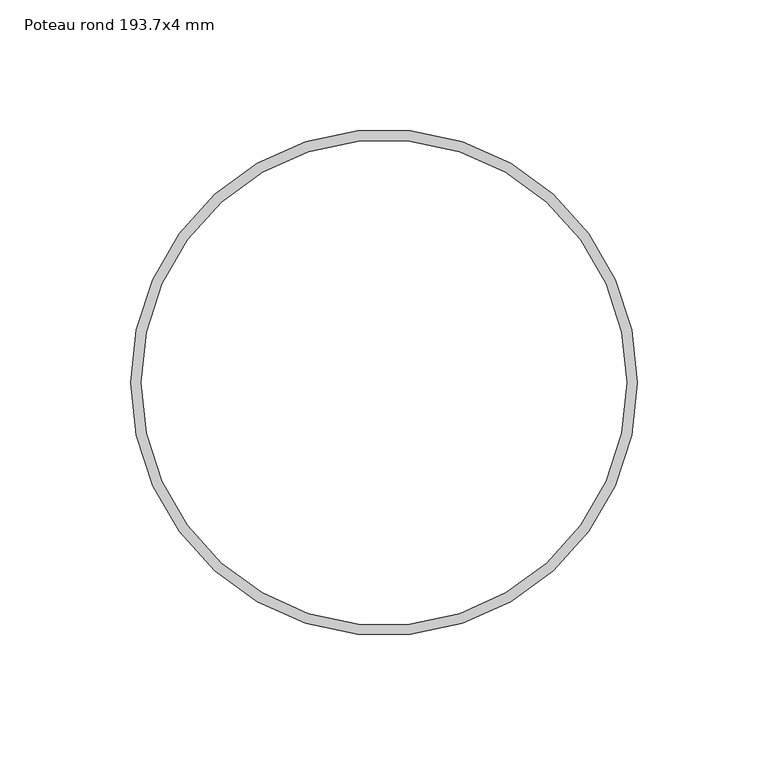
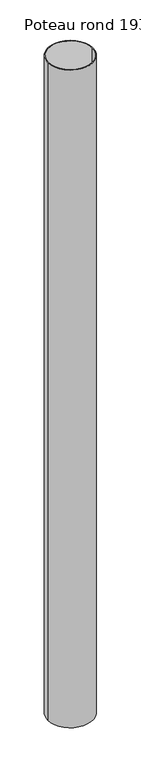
"""IFC4 building model written with IfcOpenShell, lengths in millimetres: column geometry, Poteau RO (EN 10219-2) : Poteau rond 193.7x4 mm."""

import ifcopenshell
import ifcopenshell.guid

model = None  # the IFC model being written
_history = None  # IfcOwnerHistory: only IFC2X3 demands one
_inside = {}  # id of a spatial element -> (the spatial element, [elements in it])
_under = {}  # id of a project, library or spatial element -> (it, [spatial elements below it])
_declared = {}  # id of a project -> (the project, [libraries it declares])
_typed = {}  # id of a type object -> (the type object, [elements of that type])
_made_of = {}  # id of a material, layer set ... -> (it, [elements and type objects made of it])


def new_model(schema):
    """Start an empty IFC model of exactly this schema.

    Asked for "IFC4X3", IfcOpenShell would pick the latest addendum, in which some entities
    have other attributes; the version numbers below select the first issue.
    IFC2X3 requires an IfcOwnerHistory on every rooted entity: one is made here for all.
    """
    global model, _history
    if schema == "IFC4X3":
        model = ifcopenshell.file(schema_version=(4, 3, 0, 0))
    else:
        model = ifcopenshell.file(schema=schema)
    _inside.clear()
    _under.clear()
    _declared.clear()
    _typed.clear()
    _made_of.clear()
    _history = None
    if model.schema == "IFC2X3":
        org = make("IfcOrganization", Name="unknown")
        user = make(
            "IfcPersonAndOrganization",
            ThePerson=make("IfcPerson", FamilyName="unknown"),
            TheOrganization=org,
        )
        app = make(
            "IfcApplication",
            ApplicationDeveloper=org,
            Version="unknown",
            ApplicationFullName="unknown",
            ApplicationIdentifier="unknown",
        )
        _history = make(
            "IfcOwnerHistory",
            OwningUser=user,
            OwningApplication=app,
            ChangeAction="ADDED",
            CreationDate=0,
        )
    return model


def make(cls, **values):
    """One entity of the class cls with the attributes given. An attribute that is None is left unset."""
    return model.create_entity(
        cls, **{name: value for name, value in values.items() if value is not None}
    )


def rooted(cls, **values):
    """An entity with a GlobalId (a new one), such as an element, a storey or a relation."""
    return make(cls, GlobalId=ifcopenshell.guid.new(), OwnerHistory=_history, **values)


def si_unit(unit_type, name, prefix=None):
    """IfcSIUnit, for example si_unit("LENGTHUNIT", "METRE", prefix="MILLI")."""
    return make("IfcSIUnit", UnitType=unit_type, Prefix=prefix, Name=name)


def assignment(units):
    """IfcUnitAssignment: the units of a project."""
    return None if units is None else make("IfcUnitAssignment", Units=units)


def point(xyz):
    """IfcCartesianPoint."""
    return None if xyz is None else make("IfcCartesianPoint", Coordinates=xyz)


def direction(xyz):
    """IfcDirection."""
    return None if xyz is None else make("IfcDirection", DirectionRatios=xyz)


def frame(location, z_axis=None, x_axis=None):
    """IfcAxis2Placement3D, a coordinate frame: its origin and axes. An axis left out is left unset."""
    return make(
        "IfcAxis2Placement3D",
        Location=point(location),
        Axis=direction(z_axis),
        RefDirection=direction(x_axis),
    )


def frame_2d(location, x_axis=None):
    """IfcAxis2Placement2D, a coordinate frame in the plane: its origin and x axis."""
    return make(
        "IfcAxis2Placement2D", Location=point(location), RefDirection=direction(x_axis)
    )


def origin():
    """The frame at (0, 0, 0) with its axes left unset."""
    return frame((0.0, 0.0, 0.0))


def origin_2d():
    """The frame at (0, 0) in the plane with its x axis left unset."""
    return frame_2d((0.0, 0.0))


def place(relative_to, where):
    """IfcLocalPlacement: puts the frame where relative to a parent placement (None: the world)."""
    return make(
        "IfcLocalPlacement", PlacementRelTo=relative_to, RelativePlacement=where
    )


def context(
    kind, dimensions, precision=None, world=None, true_north=None, identifier=None
):
    """IfcGeometricRepresentationContext, for example the 3D "Model" context."""
    return make(
        "IfcGeometricRepresentationContext",
        ContextIdentifier=identifier,
        ContextType=kind,
        CoordinateSpaceDimension=dimensions,
        Precision=precision,
        WorldCoordinateSystem=world,
        TrueNorth=true_north,
    )


def project(units=None, contexts=None):
    """IfcProject with its units and contexts."""
    return rooted(
        "IfcProject",
        Name="project",
        RepresentationContexts=contexts,
        UnitsInContext=assignment(units),
    )


def spatial(cls, under=None, at=None, **own):
    """A site, building, storey or space (cls), placed at a placement, below another one or the project."""
    s = rooted(cls, ObjectPlacement=at, **own)
    if under is not None:
        _under.setdefault(under.id(), (under, []))[1].append(s)
    return s


def circle_curve(where, radius):
    """IfcCircle in the frame where."""
    return make("IfcCircle", Position=where, Radius=radius)


def trimmed(basis, trim1, trim2, sense, master):
    """IfcTrimmedCurve: the piece of a basis curve between two trims."""
    return make(
        "IfcTrimmedCurve",
        BasisCurve=basis,
        Trim1=trim1,
        Trim2=trim2,
        SenseAgreement=sense,
        MasterRepresentation=master,
    )


def segment(curve, same_sense, transition):
    """IfcCompositeCurveSegment."""
    return make(
        "IfcCompositeCurveSegment",
        Transition=transition,
        SameSense=same_sense,
        ParentCurve=curve,
    )


def composite_curve(segments, self_intersect=None):
    """IfcCompositeCurve: segments joined end to end."""
    return make("IfcCompositeCurve", Segments=segments, SelfIntersect=self_intersect)


def outline(outer, holes=None, kind="AREA"):
    """IfcArbitraryClosedProfileDef: a profile drawn as a closed curve; with holes, ...WithVoids."""
    if holes is None:
        return make("IfcArbitraryClosedProfileDef", ProfileType=kind, OuterCurve=outer)
    return make(
        "IfcArbitraryProfileDefWithVoids",
        ProfileType=kind,
        OuterCurve=outer,
        InnerCurves=holes,
    )


def extrude(swept, where, along, depth):
    """IfcExtrudedAreaSolid: the profile swept, set in the frame where, extruded along a direction by depth."""
    return make(
        "IfcExtrudedAreaSolid",
        SweptArea=swept,
        Position=where,
        ExtrudedDirection=direction(along),
        Depth=depth,
    )


def shape(context_of_items, identifier, shape_type, items):
    """IfcShapeRepresentation: the items that make up one representation, for example the "Body"."""
    return make(
        "IfcShapeRepresentation",
        ContextOfItems=context_of_items,
        RepresentationIdentifier=identifier,
        RepresentationType=shape_type,
        Items=items,
    )


def source(mapping_origin, context_of_items, identifier, shape_type, items):
    """IfcRepresentationMap: a shape defined once, which mapped items show again and again."""
    return make(
        "IfcRepresentationMap",
        MappingOrigin=mapping_origin,
        MappedRepresentation=shape(context_of_items, identifier, shape_type, items),
    )


def transform(
    local_origin,
    x_axis=None,
    y_axis=None,
    z_axis=None,
    scale=None,
    scale2=None,
    scale3=None,
    uniform=True,
):
    """IfcCartesianTransformationOperator3D, or its non-uniform kind. x_axis, y_axis, z_axis: its Axis1, 2, 3."""
    if uniform:
        return make(
            "IfcCartesianTransformationOperator3D",
            Axis1=direction(x_axis),
            Axis2=direction(y_axis),
            LocalOrigin=point(local_origin),
            Scale=scale,
            Axis3=direction(z_axis),
        )
    return make(
        "IfcCartesianTransformationOperator3DnonUniform",
        Axis1=direction(x_axis),
        Axis2=direction(y_axis),
        LocalOrigin=point(local_origin),
        Scale=scale,
        Axis3=direction(z_axis),
        Scale2=scale2,
        Scale3=scale3,
    )


def mapped(mapping_source, mapping_target):
    """IfcMappedItem: shows the shape of a source again, moved by a transform."""
    return make(
        "IfcMappedItem", MappingSource=mapping_source, MappingTarget=mapping_target
    )


def made_of(thing, what):
    """Note that an element or type object is made of a material, layer set ...; save() writes the relation."""
    if what is not None:
        _made_of.setdefault(what.id(), (what, []))[1].append(thing)
    return thing


def element(
    cls,
    number,
    at=None,
    inside=None,
    cuts=None,
    type_object=None,
    material=None,
    context=None,
    identifier="Body",
    shape_type=None,
    held_by="IfcProductDefinitionShape",
    body=None,
    shapes=None,
    **own,
):
    """One element of the class cls, such as IfcWall. Its Tag is "e" and its number.

    at: its placement. inside: the storey or other place that contains it. cuts: it is an
    opening in that element (IfcRelVoidsElement). A single representation is given by context,
    identifier, shape_type and body (its items); several are given by shapes. held_by: the class
    of the entity that holds the representations. save() writes the other relations.
    """
    e = rooted(cls, Tag="e%d" % number, ObjectPlacement=at, **own)
    if body is not None:
        shapes = [shape(context, identifier, shape_type, body)]
    if shapes is not None:
        e.Representation = make(held_by, Representations=shapes)
    if inside is not None:
        _inside.setdefault(inside.id(), (inside, []))[1].append(e)
    if cuts is not None:
        rooted(
            "IfcRelVoidsElement", RelatingBuildingElement=cuts, RelatedOpeningElement=e
        )
    if type_object is not None:
        _typed.setdefault(type_object.id(), (type_object, []))[1].append(e)
    return made_of(e, material)


def aggregate(whole, parts):
    """IfcRelAggregates: a whole, such as a stair, and the parts it consists of."""
    return rooted("IfcRelAggregates", RelatingObject=whole, RelatedObjects=parts)


def save(model, path):
    """Write the relations noted so far, then the file.

    IfcRelAggregates (storeys below a building ...), IfcRelContainedInSpatialStructure (elements
    in a storey), IfcRelDefinesByType, IfcRelAssociatesMaterial and IfcRelDeclares: one each for
    every whole, place, type object, material and project.
    """
    for whole, parts in _under.values():
        aggregate(whole, parts)
    for where, things in _inside.values():
        rooted(
            "IfcRelContainedInSpatialStructure",
            RelatedElements=things,
            RelatingStructure=where,
        )
    for kind, things in _typed.values():
        rooted("IfcRelDefinesByType", RelatedObjects=things, RelatingType=kind)
    for what, things in _made_of.values():
        rooted("IfcRelAssociatesMaterial", RelatedObjects=things, RelatingMaterial=what)
    for by, libraries in _declared.values():
        rooted("IfcRelDeclares", RelatingContext=by, RelatedDefinitions=libraries)
    model.write(path)


def poteau_rond_193_7x4_mm_c46b126e(model_context):
    return source(origin(), model_context, "Body", "SweptSolid", [
        extrude(outline(composite_curve([segment(trimmed(circle_curve(origin_2d(), 96.85), [point((-96.85, 0.0))], [point((96.85, 0.0))], False, "CARTESIAN"), True, "CONTINUOUS"), segment(trimmed(circle_curve(origin_2d(), 96.85), [point((96.85, 0.0))], [point((-96.85, 0.0))], False, "CARTESIAN"), True, "CONTINUOUS")], self_intersect=False), holes=[composite_curve([segment(trimmed(circle_curve(origin_2d(), 92.85), [point((-92.85, 0.0))], [point((92.85, 0.0))], True, "CARTESIAN"), True, "CONTINUOUS"), segment(trimmed(circle_curve(origin_2d(), 92.85), [point((92.85, 0.0))], [point((-92.85, 0.0))], True, "CARTESIAN"), True, "CONTINUOUS")], self_intersect=False)]), frame((0.0, 0.0, 869500.0), z_axis=(0.0, 0.0, 1.0), x_axis=(1.0, 0.0, 0.0)), (0.0, 0.0, 1.0), 2991.170554),
    ])


if __name__ == "__main__":
    model = new_model("IFC4")
    model_context = context("Model", 3, world=origin())
    ifc_project = project(units=[si_unit("LENGTHUNIT", "METRE", prefix="MILLI")], contexts=[model_context])
    site = spatial("IfcSite", under=ifc_project)
    building = spatial("IfcBuilding", under=site)
    placement = place(None, origin())
    poteau_rond_193_7x4_mm_shape = poteau_rond_193_7x4_mm_c46b126e(model_context)
    element("IfcColumn", 1, ObjectType="Poteau RO (EN 10219-2) : Poteau rond 193.7x4 mm", at=placement, inside=building, context=model_context, shape_type="MappedRepresentation", body=[
        mapped(poteau_rond_193_7x4_mm_shape, transform((0.0, 0.0, 0.0), x_axis=(1.0, 0.0, 0.0), y_axis=(0.0, 1.0, 0.0), z_axis=(0.0, 0.0, 1.0))),
    ])
    save(model, "model.ifc")
